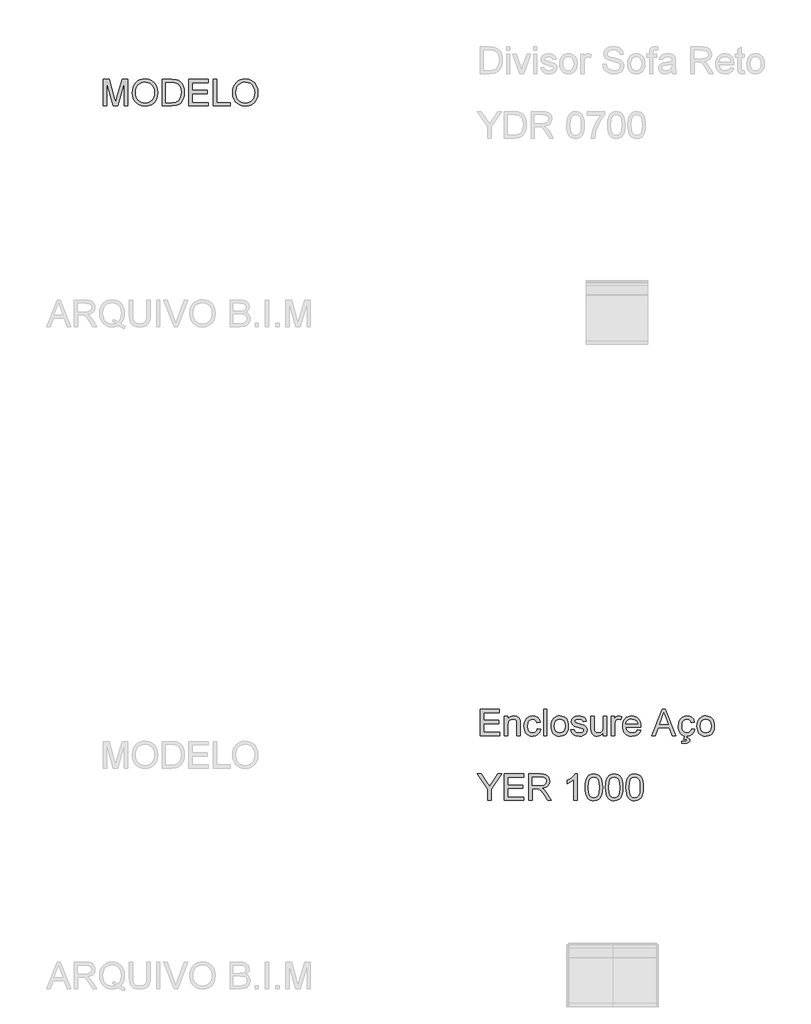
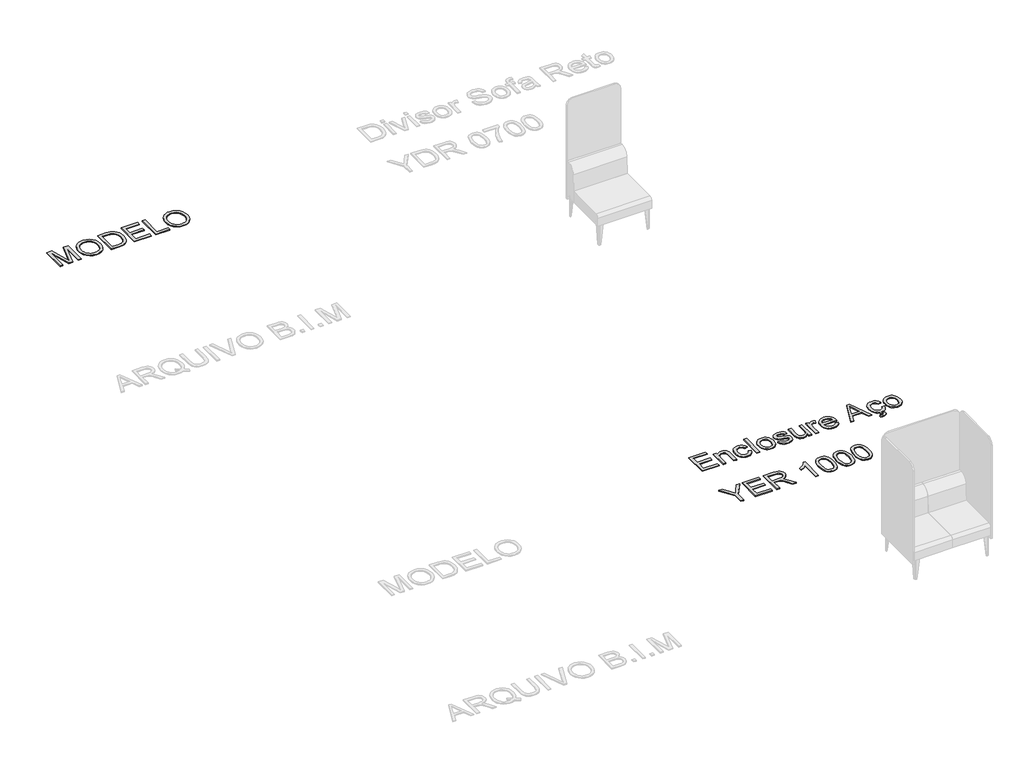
# One storey, part 2 of 26: 2 proxies.
"""IFC4 building model written with IfcOpenShell, lengths in millimetres."""

from ifc_helpers import new_model, si_unit, origin, origin_with_axes, place, context, project, spatial, polyline, outline, extrude, element, save

model = new_model("IFC4")

# Units and contexts
model_context = context("Model", 3, world=origin())
ifc_project = project(units=[si_unit("LENGTHUNIT", "METRE", prefix="MILLI")], contexts=[model_context])

# Site, building, storey
site = spatial("IfcSite", under=ifc_project)
building = spatial("IfcBuilding", under=site)
storey = spatial("IfcBuildingStorey", under=building, Name="Marelli - Linha YOUNG - Planta Baixa", Elevation=0.0)

# Proxies
placement = place(None, origin())
element("IfcBuildingElementProxy", 1, Name="300mm Arial", ObjectType="300mm Arial", at=placement, inside=storey, context=model_context, shape_type="SweptSolid", body=[
    extrude(outline(polyline([(-19966.8769052, -20280.5663201), (-19966.8769052, -19979.1973896), (-19902.0560977, -19979.1973896), (-19840.3990753, -20191.6124536), (-19827.9646638, -20235.9790223), (-19814.5001828, -20187.9336337), (-19753.87323, -19979.1973896), (-19689.0524225, -19979.1973896), (-19689.0524225, -20280.5663201), (-19726.7235388, -20280.5663201), (-19726.7235388, -20016.8685059), (-19802.4336534, -20280.5663201), (-19853.4956743, -20280.5663201), (-19929.2057889, -20016.8685059), (-19929.2057889, -20280.5663201), (-19966.8769052, -20280.5663201)])), origin_with_axes(), (0.0, 0.0, 1.0), 10.0),
    extrude(outline(polyline([(-19637.2546375, -20133.8549804), (-19634.7438429, -20098.5061192), (-19627.2114591, -20067.213157), (-19614.657486, -20039.9760937), (-19597.0819237, -20016.7949295), (-19575.5378343, -19998.2858666), (-19551.0782802, -19985.0651074), (-19523.7032612, -19977.1326519), (-19493.4127774, -19974.4885001), (-19453.883857, -19979.454907), (-19418.4384268, -19994.3541278), (-19389.0078672, -20018.1376988), (-19367.5235587, -20049.7571563), (-19354.3901714, -20087.68579), (-19350.0123757, -20130.3968896), (-19354.6200977, -20173.6782064), (-19368.4432637, -20212.140269), (-19390.7185185, -20243.8149087), (-19420.682507, -20266.733957), (-19455.8244346, -20280.6398965), (-19493.6335066, -20285.2752096), (-19533.7694323, -20280.1524528), (-19569.4171976, -20264.7841825), (-19598.7741808, -20240.5591531), (-19620.0377602, -20208.8661192), (-19632.9504182, -20172.3998164), (-19637.2546375, -20133.8549804)]), holes=[polyline([(-19599.5835212, -20134.2228624), (-19597.7004253, -20159.1974513), (-19592.0511374, -20181.3669401), (-19582.6356576, -20200.7313286), (-19569.4539858, -20217.2906169), (-19553.4304257, -20230.5527628), (-19535.4892806, -20240.0257242), (-19515.6305507, -20245.709501), (-19493.8542358, -20247.6040933), (-19471.7054404, -20245.6911069), (-19451.6121857, -20239.9521478), (-19433.5744716, -20230.3872159), (-19417.5922982, -20216.9963113), (-19404.5071955, -20200.0875351), (-19395.1606936, -20179.9689885), (-19389.5527924, -20156.6406715), (-19387.683492, -20130.102584), (-19390.8840654, -20096.7540812), (-19400.4857854, -20067.9305269), (-19416.2403319, -20044.358488), (-19437.8993843, -20026.7645316), (-19464.0282031, -20015.8108452), (-19493.1920482, -20012.1596164), (-19514.2119057, -20013.9185522), (-19533.71425, -20019.1953595), (-19551.699081, -20027.9900385), (-19568.1663988, -20040.302589), (-19581.9113899, -20056.7262208), (-19591.7292406, -20077.8541437), (-19597.6199511, -20103.6863575), (-19599.5835212, -20134.2228624)])]), origin_with_axes(), (0.0, 0.0, 1.0), 10.0),
    extrude(outline(polyline([(-19298.2145908, -20280.5663201), (-19298.2145908, -19979.1973896), (-19194.2511389, -19979.1973896), (-19140.4667912, -19983.5383972), (-19116.444097, -19991.9077126), (-19096.173799, -20005.0962821), (-19075.333284, -20028.0521186), (-19060.4892455, -20056.5997614), (-19051.6048953, -20090.1873876), (-19048.6434453, -20128.2631741), (-19050.6484021, -20160.6091985), (-19056.6632727, -20189.0740679), (-19065.8235344, -20213.3082943), (-19077.2646645, -20232.9623899), (-19090.4348399, -20248.477813), (-19104.7822377, -20260.2960221), (-19121.254154, -20269.0608107), (-19140.797885, -20275.4159721), (-19189.2479438, -20280.5663201), (-19298.2145908, -20280.5663201)]), holes=[polyline([(-19260.5434745, -20242.8952038), (-19193.8832569, -20242.8952038), (-19166.3105014, -20241.5340404), (-19145.39641, -20237.4505502), (-19129.6142724, -20230.8838566), (-19117.4373783, -20222.0730828), (-19104.3499764, -20205.7667134), (-19094.5183301, -20184.6594839), (-19088.3655037, -20158.6594239), (-19086.3145616, -20127.6745629), (-19090.3336724, -20086.6189322), (-19102.3910047, -20056.3054558), (-19120.2056904, -20035.4833349), (-19141.4968608, -20022.9017706), (-19163.1651104, -20018.3768221), (-19194.9133265, -20016.8685059), (-19260.5434745, -20016.8685059), (-19260.5434745, -20242.8952038)])]), origin_with_axes(), (0.0, 0.0, 1.0), 10.0),
    extrude(outline(polyline([(-18996.8456603, -20280.5663201), (-18996.8456603, -19979.1973896), (-18780.2367416, -19979.1973896), (-18780.2367416, -20016.8685059), (-18959.174544, -20016.8685059), (-18959.174544, -20106.3374072), (-18789.6545206, -20106.3374072), (-18789.6545206, -20144.0085235), (-18959.174544, -20144.0085235), (-18959.174544, -20242.8952038), (-18775.527852, -20242.8952038), (-18775.527852, -20280.5663201), (-18996.8456603, -20280.5663201)])), origin_with_axes(), (0.0, 0.0, 1.0), 10.0),
    extrude(outline(polyline([(-18719.0211776, -20280.5663201), (-18719.0211776, -19979.1973896), (-18681.3500613, -19979.1973896), (-18681.3500613, -20242.8952038), (-18530.665596, -20242.8952038), (-18530.665596, -20280.5663201), (-18719.0211776, -20280.5663201)])), origin_with_axes(), (0.0, 0.0, 1.0), 10.0),
    extrude(outline(polyline([(-18502.4122588, -20133.8549804), (-18499.9014642, -20098.5061192), (-18492.3690803, -20067.213157), (-18479.8151073, -20039.9760937), (-18462.2395449, -20016.7949295), (-18440.6954556, -19998.2858666), (-18416.2359014, -19985.0651074), (-18388.8608825, -19977.1326519), (-18358.5703987, -19974.4885001), (-18319.0414783, -19979.454907), (-18283.5960481, -19994.3541278), (-18254.1654885, -20018.1376988), (-18232.6811799, -20049.7571563), (-18219.5477927, -20087.68579), (-18215.169997, -20130.3968896), (-18219.777719, -20173.6782064), (-18233.6008849, -20212.140269), (-18255.8761397, -20243.8149087), (-18285.8401283, -20266.733957), (-18320.9820558, -20280.6398965), (-18358.7911279, -20285.2752096), (-18398.9270536, -20280.1524528), (-18434.5748189, -20264.7841825), (-18463.9318021, -20240.5591531), (-18485.1953814, -20208.8661192), (-18498.1080395, -20172.3998164), (-18502.4122588, -20133.8549804)]), holes=[polyline([(-18464.7411425, -20134.2228624), (-18462.8580465, -20159.1974513), (-18457.2087587, -20181.3669401), (-18447.7932788, -20200.7313286), (-18434.6116071, -20217.2906169), (-18418.5880469, -20230.5527628), (-18400.6469019, -20240.0257242), (-18380.7881719, -20245.709501), (-18359.0118571, -20247.6040933), (-18336.8630617, -20245.6911069), (-18316.769807, -20239.9521478), (-18298.7320929, -20230.3872159), (-18282.7499195, -20216.9963113), (-18269.6648168, -20200.0875351), (-18260.3183148, -20179.9689885), (-18254.7104137, -20156.6406715), (-18252.8411133, -20130.102584), (-18256.0416866, -20096.7540812), (-18265.6434067, -20067.9305269), (-18281.3979532, -20044.358488), (-18303.0570056, -20026.7645316), (-18329.1858243, -20015.8108452), (-18358.3496695, -20012.1596164), (-18379.369527, -20013.9185522), (-18398.8718713, -20019.1953595), (-18416.8567023, -20027.9900385), (-18433.3240201, -20040.302589), (-18447.0690112, -20056.7262208), (-18456.8868619, -20077.8541437), (-18462.7775724, -20103.6863575), (-18464.7411425, -20134.2228624)])]), origin_with_axes(), (0.0, 0.0, 1.0), 10.0),
])
element("IfcBuildingElementProxy", 2, Name="300mm Arial", ObjectType="300mm Arial", at=placement, inside=storey, context=model_context, shape_type="SweptSolid", body=[
    extrude(outline(polyline([(-15696.7547836, -27414.6418665), (-15696.7547836, -27113.2729361), (-15480.1458649, -27113.2729361), (-15480.1458649, -27150.9440524), (-15659.0836673, -27150.9440524), (-15659.0836673, -27240.4129536), (-15489.563644, -27240.4129536), (-15489.563644, -27278.0840699), (-15659.0836673, -27278.0840699), (-15659.0836673, -27376.9707502), (-15475.4369753, -27376.9707502), (-15475.4369753, -27414.6418665), (-15696.7547836, -27414.6418665)])), origin_with_axes(), (0.0, 0.0, 1.0), 10.0),
    extrude(outline(polyline([(-15423.6391904, -27414.6418665), (-15423.6391904, -27193.3240582), (-15385.9680741, -27193.3240582), (-15385.9680741, -27224.2261458), (-15372.8806721, -27208.6463433), (-15357.1629139, -27197.517913), (-15338.8147994, -27190.8408548), (-15317.8363286, -27188.6151687), (-15299.2674849, -27190.4085934), (-15282.2621397, -27195.7888676), (-15268.0802888, -27204.0846066), (-15257.981928, -27214.6244258), (-15246.6879507, -27242.32594), (-15244.701388, -27278.7462575), (-15244.701388, -27414.6418665), (-15282.3725043, -27414.6418665), (-15282.3725043, -27283.823029), (-15286.7135118, -27250.4929203), (-15292.7191854, -27240.5693035), (-15302.054191, -27232.8713727), (-15314.0195529, -27227.9325569), (-15327.9162953, -27226.286285), (-15349.9800179, -27229.9834991), (-15368.7879849, -27241.0751412), (-15376.304274, -27250.1296368), (-15381.6730518, -27262.5042674), (-15385.9680741, -27297.2139337), (-15385.9680741, -27414.6418665), (-15423.6391904, -27414.6418665)])), origin_with_axes(), (0.0, 0.0, 1.0), 10.0),
    extrude(outline(polyline([(-15051.6369169, -27334.5907444), (-15013.9658006, -27339.2996339), (-15024.4688316, -27372.8044866), (-15044.2057006, -27398.1239649), (-15071.3186036, -27414.0440583), (-15103.9497366, -27419.3507561), (-15125.0776595, -27417.4998498), (-15144.0212829, -27411.9471309), (-15160.7806071, -27402.6925995), (-15175.3556319, -27389.7362555), (-15187.1531476, -27373.3218207), (-15195.5799446, -27353.693017), (-15200.6360227, -27330.8498443), (-15202.3213821, -27304.7923028), (-15199.4427055, -27271.269056), (-15190.8066757, -27242.2155754), (-15176.2753369, -27218.7539012), (-15155.7107333, -27202.0060733), (-15131.1086249, -27191.9628949), (-15104.4647714, -27188.6151687), (-15072.6337818, -27193.2136936), (-15047.1855448, -27207.0092685), (-15028.9294007, -27229.2661292), (-15018.6746901, -27259.2485118), (-15056.3458064, -27263.9574013), (-15063.1792145, -27247.5222732), (-15073.8202012, -27235.7408523), (-15087.6801554, -27228.6499268), (-15104.1704658, -27226.286285), (-15128.5150568, -27230.9399922), (-15147.8380586, -27244.901114), (-15160.447214, -27268.9238082), (-15164.6502658, -27303.7622332), (-15160.5391845, -27339.0697077), (-15148.2059406, -27363.1751754), (-15129.2324267, -27377.0535237), (-15105.2005354, -27381.6796398), (-15085.6935926, -27378.7917661), (-15069.6999229, -27370.1281451), (-15058.0656548, -27355.4680476), (-15051.6369169, -27334.5907444)])), origin_with_axes(), (0.0, 0.0, 1.0), 10.0),
    extrude(outline(polyline([(-14981.0035738, -27414.6418665), (-14981.0035738, -27113.2729361), (-14943.3324575, -27113.2729361), (-14943.3324575, -27414.6418665), (-14981.0035738, -27414.6418665)])), origin_with_axes(), (0.0, 0.0, 1.0), 10.0),
    extrude(outline(polyline([(-14896.2435621, -27303.9829624), (-14894.2064156, -27275.3203564), (-14888.0949759, -27250.621679), (-14877.9092432, -27229.88693), (-14863.6492174, -27213.1161096), (-14849.2926225, -27202.3969479), (-14833.4461056, -27194.7404039), (-14816.1096665, -27190.1464775), (-14797.2833054, -27188.6151687), (-14776.500272, -27190.4798706), (-14757.7083998, -27196.0739761), (-14740.9076889, -27205.3974855), (-14726.0981394, -27218.4503985), (-14714.0109166, -27234.7912569), (-14705.377186, -27253.9786022), (-14700.1969476, -27276.0124344), (-14698.4702015, -27300.8927536), (-14701.5236221, -27338.950146), (-14710.6838838, -27367.9208531), (-14725.6842721, -27389.6166938), (-14746.2580727, -27405.8494868), (-14770.6946342, -27415.9754388), (-14797.2833054, -27419.3507561), (-14818.3698415, -27417.492952), (-14837.3364577, -27411.9195398), (-14854.1831538, -27402.6305194), (-14868.9099299, -27389.6258909), (-14880.868394, -27373.1263834), (-14889.4101541, -27353.3527261), (-14894.5352101, -27330.3049191), (-14896.2435621, -27303.9829624)]), holes=[polyline([(-14858.5724458, -27303.909386), (-14854.2130442, -27338.0028499), (-14841.1348393, -27362.2922586), (-14821.4531525, -27376.8327945), (-14797.2833054, -27381.6796398), (-14773.223823, -27376.8052033), (-14753.5789244, -27362.181894), (-14740.5007195, -27337.5705885), (-14736.1413178, -27302.7321636), (-14740.5283106, -27269.6319811), (-14753.689289, -27245.6736661), (-14773.3617787, -27231.1331303), (-14797.2833054, -27226.286285), (-14821.4531525, -27231.1147362), (-14841.1348393, -27245.6000897), (-14854.2130442, -27269.8343162), (-14858.5724458, -27303.909386)])]), origin_with_axes(), (0.0, 0.0, 1.0), 10.0),
    extrude(outline(polyline([(-14670.2168643, -27348.717413), (-14632.545748, -27344.0085235), (-14626.6044538, -27360.1217548), (-14615.1081414, -27371.9675551), (-14597.9832345, -27379.2516186), (-14575.1561567, -27381.6796398), (-14552.6049904, -27379.4539537), (-14536.7492765, -27372.7768955), (-14527.3682856, -27363.101599), (-14524.2412886, -27351.8811982), (-14527.3866797, -27342.2794781), (-14536.8228529, -27334.9586264), (-14575.5976151, -27324.2164721), (-14632.3250188, -27305.7855842), (-14646.6816137, -27296.5241549), (-14657.0834771, -27284.2644874), (-14663.4018503, -27269.7883309), (-14665.5079748, -27253.8774346), (-14663.8157176, -27239.2817165), (-14658.7389461, -27225.8080384), (-14650.7375127, -27213.9898293), (-14640.2712699, -27204.3605181), (-14616.322152, -27193.2136936), (-14583.9117482, -27188.6151687), (-14559.3924133, -27190.4637757), (-14538.0736516, -27196.0095968), (-14520.9303507, -27204.710006), (-14508.9373976, -27216.0223773), (-14500.9911465, -27230.7836424), (-14495.9879514, -27249.8307327), (-14533.6590677, -27254.5396222), (-14538.4139425, -27242.6846249), (-14547.8225245, -27233.7542895), (-14561.9767843, -27228.1532861), (-14580.9686923, -27226.286285), (-14602.6001536, -27228.0705127), (-14617.0211278, -27233.4231957), (-14625.1329258, -27241.1487176), (-14627.8368585, -27250.0514619), (-14623.3486981, -27261.0143453), (-14609.2956059, -27269.3284784), (-14576.8484139, -27277.3483059), (-14521.5557501, -27295.0802181), (-14506.9508348, -27303.5598981), (-14495.8775868, -27315.166575), (-14488.8970259, -27329.9370371), (-14486.5701723, -27347.9080726), (-14489.3016961, -27366.4861134), (-14497.4962676, -27383.9605081), (-14510.8411869, -27398.9608965), (-14529.0237546, -27410.116918), (-14550.9863097, -27417.0422966), (-14575.6711915, -27419.3507561), (-14613.6550075, -27414.8993839), (-14641.3749159, -27401.5452675), (-14659.8793802, -27379.4355596), (-14670.2168643, -27348.717413)])), origin_with_axes(), (0.0, 0.0, 1.0), 10.0),
    extrude(outline(polyline([(-14302.9234803, -27414.6418665), (-14302.9234803, -27376.6028682), (-14316.5535082, -27395.3050692), (-14332.4276163, -27408.6637841), (-14350.5458046, -27416.6790131), (-14370.908073, -27419.3507561), (-14389.2561875, -27417.4745579), (-14406.3351092, -27411.8459634), (-14420.6641129, -27403.3846775), (-14430.7624736, -27393.0104052), (-14441.9828745, -27365.2721028), (-14444.1901665, -27330.2497368), (-14444.1901665, -27193.3240582), (-14406.5190502, -27193.3240582), (-14406.5190502, -27312.5178247), (-14404.2381818, -27350.924705), (-14398.747543, -27363.7361954), (-14389.338961, -27373.4758713), (-14376.6378351, -27379.6286976), (-14361.2695648, -27381.6796398), (-14345.0183776, -27379.5827124), (-14329.8156542, -27373.2919303), (-14317.2800752, -27363.3867076), (-14309.0303214, -27350.4464584), (-14304.4501906, -27332.7237433), (-14302.9234803, -27308.4711227), (-14302.9234803, -27193.3240582), (-14265.252364, -27193.3240582), (-14265.252364, -27414.6418665), (-14302.9234803, -27414.6418665)])), origin_with_axes(), (0.0, 0.0, 1.0), 10.0),
    extrude(outline(polyline([(-14213.4545791, -27414.6418665), (-14213.4545791, -27193.3240582), (-14180.4923523, -27193.3240582), (-14180.4923523, -27226.0655558), (-14168.3154583, -27207.0828449), (-14157.0950574, -27195.8992322), (-14145.8378684, -27190.4361846), (-14133.5506097, -27188.6151687), (-14114.788628, -27191.5214365), (-14095.7323406, -27200.2402397), (-14108.3139049, -27234.0118069), (-14121.5576567, -27228.2176655), (-14134.8014085, -27226.286285), (-14146.0494005, -27228.1440891), (-14156.101776, -27233.7175013), (-14164.2227711, -27242.5834574), (-14169.6766217, -27254.318893), (-14174.2567525, -27275.3617432), (-14175.7834628, -27298.3175797), (-14175.7834628, -27414.6418665), (-14213.4545791, -27414.6418665)])), origin_with_axes(), (0.0, 0.0, 1.0), 10.0),
    extrude(outline(polyline([(-13917.2359966, -27348.717413), (-13880.3006443, -27353.4263025), (-13893.6087754, -27381.2565755), (-13914.8447636, -27402.0603023), (-13943.5303622, -27415.0281426), (-13979.1873246, -27419.3507561), (-14002.5616268, -27417.4860542), (-14023.3883463, -27411.8919486), (-14041.6674829, -27402.5684393), (-14057.3990367, -27389.5155263), (-14070.0495788, -27373.096493), (-14079.0856804, -27353.6746229), (-14084.5073413, -27331.249916), (-14086.3145616, -27305.8223724), (-14084.4889472, -27279.5326053), (-14079.012104, -27256.3606381), (-14069.8840319, -27236.3064708), (-14057.1047311, -27219.3701035), (-14041.414564, -27205.9148195), (-14023.5538932, -27196.3039024), (-14003.5227185, -27190.5373521), (-13981.3210401, -27188.6151687), (-13959.8344324, -27190.5327536), (-13940.4033652, -27196.2855083), (-13923.0278387, -27205.8734328), (-13907.7078529, -27219.2965271), (-13895.2021643, -27236.1961062), (-13886.2695296, -27256.2134853), (-13880.9099488, -27279.3486643), (-13879.1234219, -27305.6016432), (-13879.3441511, -27315.7551862), (-14048.6434453, -27315.7551862), (-14042.1227369, -27343.9533412), (-14026.9751957, -27364.6834916), (-14005.1138082, -27377.4306027), (-13978.4515606, -27381.6796398), (-13958.4019918, -27379.7114711), (-13941.5162083, -27373.8069651), (-13927.7942098, -27363.5982397), (-13917.2359966, -27348.717413)]), holes=[polyline([(-14048.6434453, -27278.0840699), (-13916.7945382, -27278.0840699), (-13921.8897038, -27258.181654), (-13931.8777, -27243.9446208), (-13953.8402551, -27230.7008689), (-13981.4681929, -27226.286285), (-14006.8612476, -27229.8087551), (-14027.8581125, -27240.3761654), (-14042.4538307, -27256.8480818), (-14048.6434453, -27278.0840699)])]), origin_with_axes(), (0.0, 0.0, 1.0), 10.0),
    extrude(outline(polyline([(-13754.1171199, -27414.6418665), (-13633.8197075, -27113.2729361), (-13601.7403975, -27113.2729361), (-13481.4429851, -27414.6418665), (-13521.247817, -27414.6418665), (-13555.7551481, -27320.4640758), (-13679.8785333, -27320.4640758), (-13714.312288, -27414.6418665), (-13754.1171199, -27414.6418665)]), holes=[polyline([(-13666.0461703, -27282.7929595), (-13569.5139347, -27282.7929595), (-13596.663626, -27208.7015256), (-13617.7800525, -27150.9440524), (-13636.5420343, -27202.2268025), (-13666.0461703, -27282.7929595)])]), origin_with_axes(), (0.0, 0.0, 1.0), 10.0),
    extrude(outline(polyline([(-13304.6388982, -27334.5907444), (-13266.9677819, -27339.2996339), (-13277.4708129, -27372.8044866), (-13297.2076819, -27398.1239649), (-13324.3205849, -27414.0440583), (-13357.965626, -27419.2619329), (-13363.2057118, -27435.0961055), (-13346.2371548, -27438.5541962), (-13333.738364, -27445.1024957), (-13326.0404333, -27453.6557521), (-13323.4744564, -27463.1287135), (-13327.1900645, -27476.6299827), (-13338.336889, -27488.4389948), (-13356.9885061, -27496.6611574), (-13383.2184924, -27499.4018782), (-13412.9433576, -27499.4018782), (-13412.9433576, -27475.8574305), (-13392.1212367, -27475.8574305), (-13362.8378298, -27471.516423), (-13356.4366831, -27463.4230191), (-13359.0118571, -27458.0887302), (-13368.5400008, -27454.1156046), (-13390.5761323, -27452.3129828), (-13380.5789009, -27416.7672714), (-13397.0232642, -27411.9471309), (-13413.7825884, -27402.6925995), (-13428.3576132, -27389.7362555), (-13440.1551289, -27373.3218207), (-13448.5819259, -27353.693017), (-13453.638004, -27330.8498443), (-13455.3233634, -27304.7923028), (-13452.4446868, -27271.269056), (-13443.808657, -27242.2155754), (-13429.2773182, -27218.7539012), (-13408.7127146, -27202.0060733), (-13384.1106062, -27191.9628949), (-13357.4667527, -27188.6151687), (-13325.6357631, -27193.2136936), (-13300.1875261, -27207.0092685), (-13281.9313821, -27229.2661292), (-13271.6766714, -27259.2485118), (-13309.3477877, -27263.9574013), (-13316.1811958, -27247.5222732), (-13326.8221825, -27235.7408523), (-13340.6821367, -27228.6499268), (-13357.1724471, -27226.286285), (-13381.5170381, -27230.9399922), (-13400.8400399, -27244.901114), (-13413.4491953, -27268.9238082), (-13417.6522471, -27303.7622332), (-13413.5411658, -27339.0697077), (-13401.2079219, -27363.1751754), (-13382.234408, -27377.0535237), (-13358.2025167, -27381.6796398), (-13338.6955739, -27378.7917661), (-13322.7019042, -27370.1281451), (-13311.0676361, -27355.4680476), (-13304.6388982, -27334.5907444)])), origin_with_axes(), (0.0, 0.0, 1.0), 10.0),
    extrude(outline(polyline([(-13243.4233342, -27303.9829624), (-13241.3861877, -27275.3203564), (-13235.274748, -27250.621679), (-13225.0890153, -27229.88693), (-13210.8289894, -27213.1161096), (-13196.4723946, -27202.3969479), (-13180.6258776, -27194.7404039), (-13163.2894386, -27190.1464775), (-13144.4630775, -27188.6151687), (-13123.680044, -27190.4798706), (-13104.8881719, -27196.0739761), (-13088.087461, -27205.3974855), (-13073.2779114, -27218.4503985), (-13061.1906886, -27234.7912569), (-13052.5569581, -27253.9786022), (-13047.3767197, -27276.0124344), (-13045.6499736, -27300.8927536), (-13048.7033942, -27338.950146), (-13057.8636558, -27367.9208531), (-13072.8640442, -27389.6166938), (-13093.4378448, -27405.8494868), (-13117.8744063, -27415.9754388), (-13144.4630775, -27419.3507561), (-13165.5496136, -27417.492952), (-13184.5162297, -27411.9195398), (-13201.3629258, -27402.6305194), (-13216.089702, -27389.6258909), (-13228.0481661, -27373.1263834), (-13236.5899261, -27353.3527261), (-13241.7149822, -27330.3049191), (-13243.4233342, -27303.9829624)]), holes=[polyline([(-13205.7522179, -27303.909386), (-13201.3928163, -27338.0028499), (-13188.3146113, -27362.2922586), (-13168.6329246, -27376.8327945), (-13144.4630775, -27381.6796398), (-13120.403595, -27376.8052033), (-13100.7586965, -27362.181894), (-13087.6804916, -27337.5705885), (-13083.3210899, -27302.7321636), (-13087.7080827, -27269.6319811), (-13100.8690611, -27245.6736661), (-13120.5415508, -27231.1331303), (-13144.4630775, -27226.286285), (-13168.6329246, -27231.1147362), (-13188.3146113, -27245.6000897), (-13201.3928163, -27269.8343162), (-13205.7522179, -27303.909386)])]), origin_with_axes(), (0.0, 0.0, 1.0), 10.0),
    extrude(outline(polyline([(-15611.994772, -28146.4907736), (-15611.994772, -28018.8357213), (-15729.7170104, -27845.1218432), (-15685.2768654, -27845.1218432), (-15622.4426206, -27937.9016823), (-15590.2897342, -27985.2113069), (-15558.0632715, -27934.517168), (-15501.0415622, -27845.1218432), (-15456.6014172, -27845.1218432), (-15574.3236556, -28018.8357213), (-15574.3236556, -28146.4907736), (-15611.994772, -28146.4907736)])), origin_with_axes(), (0.0, 0.0, 1.0), 10.0),
    extrude(outline(polyline([(-15423.6391904, -28146.4907736), (-15423.6391904, -27845.1218432), (-15207.0302717, -27845.1218432), (-15207.0302717, -27882.7929595), (-15385.9680741, -27882.7929595), (-15385.9680741, -27972.2618607), (-15216.4480507, -27972.2618607), (-15216.4480507, -28009.932977), (-15385.9680741, -28009.932977), (-15385.9680741, -28108.8196573), (-15202.3213821, -28108.8196573), (-15202.3213821, -28146.4907736), (-15423.6391904, -28146.4907736)])), origin_with_axes(), (0.0, 0.0, 1.0), 10.0),
    extrude(outline(polyline([(-15145.8147077, -28146.4907736), (-15145.8147077, -27845.1218432), (-15015.9523634, -27845.1218432), (-14981.0495591, -27847.1543912), (-14955.6565044, -27853.2520352), (-14937.0968577, -27864.5092243), (-14922.6942776, -27882.0204073), (-14913.4512425, -27903.734642), (-14910.3702308, -27927.6009865), (-14915.4745934, -27957.2890635), (-14930.7876815, -27981.900369), (-14942.3874606, -27991.9297519), (-14956.7693474, -27999.9449808), (-14993.8794437, -28009.932977), (-14972.4687115, -28026.0462084), (-14941.9345059, -28064.8209707), (-14891.6818254, -28146.4907736), (-14935.4597828, -28146.4907736), (-14974.6760035, -28084.0244108), (-15003.0029171, -28042.6744746), (-15022.9053331, -28023.1399406), (-15040.8211862, -28015.9662417), (-15062.6733768, -28014.6418665), (-15108.1435914, -28014.6418665), (-15108.1435914, -28146.4907736), (-15145.8147077, -28146.4907736)]), holes=[polyline([(-15108.1435914, -27976.9707502), (-15023.8250381, -27976.9707502), (-14999.6092057, -27975.637178), (-14980.8196328, -27971.6364613), (-14966.6745701, -27964.7018857), (-14956.3922683, -27954.5667367), (-14950.1290774, -27942.3070692), (-14948.0413471, -27928.9989381), (-14952.0236697, -27910.6232324), (-14963.9706375, -27895.8159821), (-14984.5260439, -27886.0487151), (-15014.3336826, -27882.7929595), (-15108.1435914, -27882.7929595), (-15108.1435914, -27976.9707502)])]), origin_with_axes(), (0.0, 0.0, 1.0), 10.0),
    extrude(outline(polyline([(-14599.5835212, -28146.4907736), (-14637.2546375, -28146.4907736), (-14637.2546375, -27911.6349079), (-14672.9391911, -27937.0555537), (-14712.5968701, -27956.0750529), (-14712.5968701, -27920.4640758), (-14683.0099607, -27904.3692385), (-14657.3777827, -27885.2209806), (-14637.1718641, -27864.8587122), (-14623.8637329, -27845.1218432), (-14599.5835212, -27845.1218432), (-14599.5835212, -28146.4907736)])), origin_with_axes(), (0.0, 0.0, 1.0), 10.0),
    extrude(outline(polyline([(-14510.11462, -27998.2343295), (-14507.346308, -27949.9958029), (-14499.0413719, -27911.5245433), (-14485.2825853, -27882.2319394), (-14466.1527216, -27861.5293801), (-14441.513825, -27849.2237274), (-14411.2279397, -27845.1218432), (-14388.0145858, -27847.5498643), (-14367.2292531, -27854.8339278), (-14349.8468288, -27866.6889251), (-14336.8422003, -27882.8297477), (-14327.019751, -27903.1184397), (-14319.1838645, -27927.4170455), (-14314.0519107, -27958.2731478), (-14312.3412594, -27998.2343295), (-14315.0819803, -28046.1969447), (-14323.3041429, -28084.5762338), (-14336.980156, -28113.8964288), (-14356.0824286, -28134.6817616), (-14380.7765075, -28147.0701877), (-14411.2279397, -28151.1996631), (-14431.9764842, -28149.4062384), (-14450.370584, -28144.0259642), (-14466.410239, -28135.0588406), (-14480.0954492, -28122.5048675), (-14493.2288364, -28099.8111469), (-14502.6098273, -28071.5348171), (-14508.2384218, -28037.675878), (-14510.11462, -27998.2343295)]), holes=[polyline([(-14472.4435037, -27998.1607531), (-14468.0289198, -28057.4173455), (-14462.5106898, -28077.6853442), (-14454.7851679, -28091.7131445), (-14435.066693, -28108.0746963), (-14411.2279397, -28113.5285468), (-14387.3891864, -28108.0563022), (-14367.6707115, -28091.6395681), (-14359.9451896, -28077.5887752), (-14354.4269596, -28057.325375), (-14350.0123757, -27998.1607531), (-14354.2798068, -27940.237733), (-14359.6140958, -27920.0364129), (-14367.0821003, -27905.6752196), (-14386.763787, -27888.5135245), (-14411.6693981, -27882.7929595), (-14435.250634, -27887.8329428), (-14454.1965567, -27902.9528928), (-14462.179596, -27918.5878776), (-14467.881767, -27939.6675159), (-14472.4435037, -27998.1607531)])]), origin_with_axes(), (0.0, 0.0, 1.0), 10.0),
    extrude(outline(polyline([(-14279.3790326, -27998.2343295), (-14276.6107206, -27949.9958029), (-14268.3057846, -27911.5245433), (-14254.546998, -27882.2319394), (-14235.4171342, -27861.5293801), (-14210.7782376, -27849.2237274), (-14180.4923523, -27845.1218432), (-14157.2789984, -27847.5498643), (-14136.4936657, -27854.8339278), (-14119.1112414, -27866.6889251), (-14106.1066129, -27882.8297477), (-14096.2841636, -27903.1184397), (-14088.4482771, -27927.4170455), (-14083.3163233, -27958.2731478), (-14081.605672, -27998.2343295), (-14084.3463929, -28046.1969447), (-14092.5685555, -28084.5762338), (-14106.2445686, -28113.8964288), (-14125.3468412, -28134.6817616), (-14150.0409202, -28147.0701877), (-14180.4923523, -28151.1996631), (-14201.2408969, -28149.4062384), (-14219.6349966, -28144.0259642), (-14235.6746516, -28135.0588406), (-14249.3598618, -28122.5048675), (-14262.493249, -28099.8111469), (-14271.8742399, -28071.5348171), (-14277.5028345, -28037.675878), (-14279.3790326, -27998.2343295)]), holes=[polyline([(-14241.7079163, -27998.1607531), (-14237.2933324, -28057.4173455), (-14231.7751025, -28077.6853442), (-14224.0495806, -28091.7131445), (-14204.3311056, -28108.0746963), (-14180.4923523, -28113.5285468), (-14156.653599, -28108.0563022), (-14136.9351241, -28091.6395681), (-14129.2096022, -28077.5887752), (-14123.6913723, -28057.325375), (-14119.2767883, -27998.1607531), (-14123.5442195, -27940.237733), (-14128.8785084, -27920.0364129), (-14136.3465129, -27905.6752196), (-14156.0281996, -27888.5135245), (-14180.9338107, -27882.7929595), (-14204.5150466, -27887.8329428), (-14223.4609694, -27902.9528928), (-14231.4440087, -27918.5878776), (-14237.1461796, -27939.6675159), (-14241.7079163, -27998.1607531)])]), origin_with_axes(), (0.0, 0.0, 1.0), 10.0),
    extrude(outline(polyline([(-14048.6434453, -27998.2343295), (-14045.8751332, -27949.9958029), (-14037.5701972, -27911.5245433), (-14023.8114106, -27882.2319394), (-14004.6815468, -27861.5293801), (-13980.0426502, -27849.2237274), (-13949.7567649, -27845.1218432), (-13926.5434111, -27847.5498643), (-13905.7580783, -27854.8339278), (-13888.3756541, -27866.6889251), (-13875.3710255, -27882.8297477), (-13865.5485763, -27903.1184397), (-13857.7126898, -27927.4170455), (-13852.5807359, -27958.2731478), (-13850.8700846, -27998.2343295), (-13853.6108055, -28046.1969447), (-13861.8329681, -28084.5762338), (-13875.5089813, -28113.8964288), (-13894.6112539, -28134.6817616), (-13919.3053328, -28147.0701877), (-13949.7567649, -28151.1996631), (-13970.5053095, -28149.4062384), (-13988.8994092, -28144.0259642), (-14004.9390642, -28135.0588406), (-14018.6242744, -28122.5048675), (-14031.7576617, -28099.8111469), (-14041.1386525, -28071.5348171), (-14046.7672471, -28037.675878), (-14048.6434453, -27998.2343295)]), holes=[polyline([(-14010.9723289, -27998.1607531), (-14006.557745, -28057.4173455), (-14001.0395151, -28077.6853442), (-13993.3139932, -28091.7131445), (-13973.5955182, -28108.0746963), (-13949.7567649, -28113.5285468), (-13925.9180117, -28108.0563022), (-13906.1995367, -28091.6395681), (-13898.4740148, -28077.5887752), (-13892.9557849, -28057.325375), (-13888.541201, -27998.1607531), (-13892.8086321, -27940.237733), (-13898.142921, -27920.0364129), (-13905.6109255, -27905.6752196), (-13925.2926123, -27888.5135245), (-13950.1982233, -27882.7929595), (-13973.7794592, -27887.8329428), (-13992.725382, -27902.9528928), (-14000.7084213, -27918.5878776), (-14006.4105922, -27939.6675159), (-14010.9723289, -27998.1607531)])]), origin_with_axes(), (0.0, 0.0, 1.0), 10.0),
])

save(model, "model.ifc")
